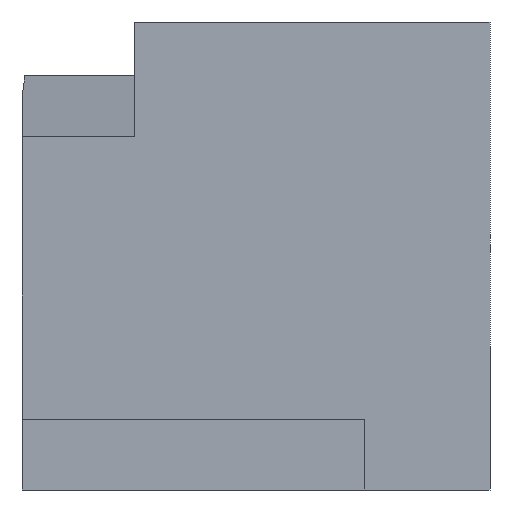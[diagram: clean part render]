
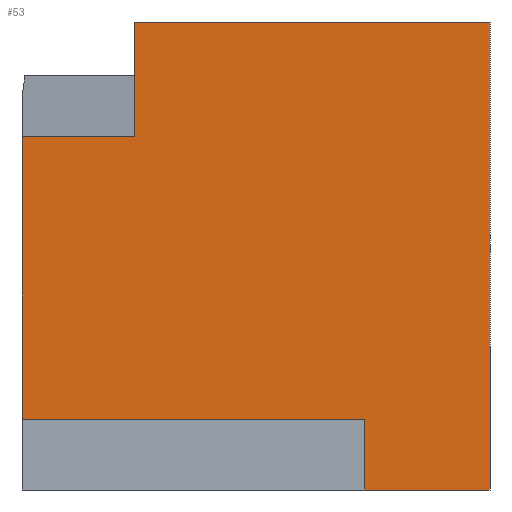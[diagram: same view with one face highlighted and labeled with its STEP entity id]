
A CAD part, left-side view. The second image highlights one B-rep face of the part: STEP entity #53.
In plain terms, the highlighted planar face has unit normal (-1, 0, 0).
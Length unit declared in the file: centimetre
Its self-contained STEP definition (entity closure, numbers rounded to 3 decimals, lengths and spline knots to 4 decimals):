
#7 = ORIENTED_EDGE ( 'NONE', *, *, #433, .F. ) ;
#8 = EDGE_CURVE ( 'NONE', #88, #680, #545, .T. ) ;
#12 = VERTEX_POINT ( 'NONE', #464 ) ;
#28 = LINE ( 'NONE', #211, #869 ) ;
#42 = DIRECTION ( 'NONE',  ( 0., -1., 0. ) ) ;
#53 = ADVANCED_FACE ( 'NONE', ( #355 ), #379, .F. ) ;
#84 = VERTEX_POINT ( 'NONE', #456 ) ;
#88 = VERTEX_POINT ( 'NONE', #884 ) ;
#122 = DIRECTION ( 'NONE',  ( 0., 0., -1. ) ) ;
#128 = DIRECTION ( 'NONE',  ( 0., 0., 1. ) ) ;
#132 = DIRECTION ( 'NONE',  ( 0., 0., 1. ) ) ;
#137 = CARTESIAN_POINT ( 'NONE',  ( 0., 758.5505, 755.2381 ) ) ;
#145 = VERTEX_POINT ( 'NONE', #625 ) ;
#151 = ORIENTED_EDGE ( 'NONE', *, *, #418, .T. ) ;
#155 = ORIENTED_EDGE ( 'NONE', *, *, #637, .T. ) ;
#176 = CARTESIAN_POINT ( 'NONE',  ( 0., 758.5505, 1000. ) ) ;
#211 = CARTESIAN_POINT ( 'NONE',  ( 0., 1000., 1000. ) ) ;
#261 = VECTOR ( 'NONE', #42, 100. ) ;
#269 = ORIENTED_EDGE ( 'NONE', *, *, #8, .F. ) ;
#316 = CARTESIAN_POINT ( 'NONE',  ( 0., 0., 0. ) ) ;
#334 = VECTOR ( 'NONE', #128, 100. ) ;
#355 = FACE_OUTER_BOUND ( 'NONE', #832, .T. ) ;
#371 = DIRECTION ( 'NONE',  ( 1., 0., 0. ) ) ;
#379 = PLANE ( 'NONE',  #618 ) ;
#387 = EDGE_CURVE ( 'NONE', #84, #12, #474, .T. ) ;
#389 = CARTESIAN_POINT ( 'NONE',  ( 0., 267.933, 0. ) ) ;
#397 = DIRECTION ( 'NONE',  ( 0., 1., 0. ) ) ;
#410 = EDGE_CURVE ( 'NONE', #886, #88, #798, .T. ) ;
#418 = EDGE_CURVE ( 'NONE', #899, #667, #28, .T. ) ;
#433 = EDGE_CURVE ( 'NONE', #145, #886, #548, .T. ) ;
#450 = CARTESIAN_POINT ( 'NONE',  ( 0., 1000., 1000. ) ) ;
#456 = CARTESIAN_POINT ( 'NONE',  ( 0., 267.933, 0. ) ) ;
#461 = DIRECTION ( 'NONE',  ( 0., -1., 0. ) ) ;
#464 = CARTESIAN_POINT ( 'NONE',  ( 0., 267.933, 150.9578 ) ) ;
#467 = CARTESIAN_POINT ( 'NONE',  ( 0., 1000., 0. ) ) ;
#474 = LINE ( 'NONE', #389, #894 ) ;
#506 = EDGE_CURVE ( 'NONE', #145, #899, #736, .T. ) ;
#507 = VECTOR ( 'NONE', #122, 100. ) ;
#545 = LINE ( 'NONE', #895, #507 ) ;
#548 = LINE ( 'NONE', #987, #334 ) ;
#615 = LINE ( 'NONE', #467, #261 ) ;
#618 = AXIS2_PLACEMENT_3D ( 'NONE', #450, #371, #693 ) ;
#625 = CARTESIAN_POINT ( 'NONE',  ( 0., 758.5505, 755.2381 ) ) ;
#637 = EDGE_CURVE ( 'NONE', #84, #680, #615, .T. ) ;
#667 = VERTEX_POINT ( 'NONE', #1002 ) ;
#680 = VERTEX_POINT ( 'NONE', #316 ) ;
#687 = VECTOR ( 'NONE', #461, 100. ) ;
#693 = DIRECTION ( 'NONE',  ( 0., 0., -1. ) ) ;
#716 = EDGE_CURVE ( 'NONE', #12, #667, #1005, .T. ) ;
#723 = CARTESIAN_POINT ( 'NONE',  ( 0., 1000., 1000. ) ) ;
#736 = LINE ( 'NONE', #137, #997 ) ;
#740 = ORIENTED_EDGE ( 'NONE', *, *, #410, .F. ) ;
#746 = DIRECTION ( 'NONE',  ( 0., 1., 0. ) ) ;
#771 = CARTESIAN_POINT ( 'NONE',  ( 0., 1000., 755.2381 ) ) ;
#798 = LINE ( 'NONE', #723, #687 ) ;
#829 = CARTESIAN_POINT ( 'NONE',  ( 0., 267.933, 150.9578 ) ) ;
#832 = EDGE_LOOP ( 'NONE', ( #151, #1083, #1027, #155, #269, #740, #7, #929 ) ) ;
#869 = VECTOR ( 'NONE', #1057, 100. ) ;
#884 = CARTESIAN_POINT ( 'NONE',  ( 0., 0., 1000. ) ) ;
#886 = VERTEX_POINT ( 'NONE', #176 ) ;
#894 = VECTOR ( 'NONE', #132, 100. ) ;
#895 = CARTESIAN_POINT ( 'NONE',  ( 0., 0., 1000. ) ) ;
#899 = VERTEX_POINT ( 'NONE', #771 ) ;
#929 = ORIENTED_EDGE ( 'NONE', *, *, #506, .T. ) ;
#987 = CARTESIAN_POINT ( 'NONE',  ( 0., 758.5505, 755.2381 ) ) ;
#997 = VECTOR ( 'NONE', #397, 100. ) ;
#1002 = CARTESIAN_POINT ( 'NONE',  ( 0., 1000., 150.9578 ) ) ;
#1005 = LINE ( 'NONE', #829, #1069 ) ;
#1027 = ORIENTED_EDGE ( 'NONE', *, *, #387, .F. ) ;
#1057 = DIRECTION ( 'NONE',  ( 0., 0., -1. ) ) ;
#1069 = VECTOR ( 'NONE', #746, 100. ) ;
#1083 = ORIENTED_EDGE ( 'NONE', *, *, #716, .F. ) ;
